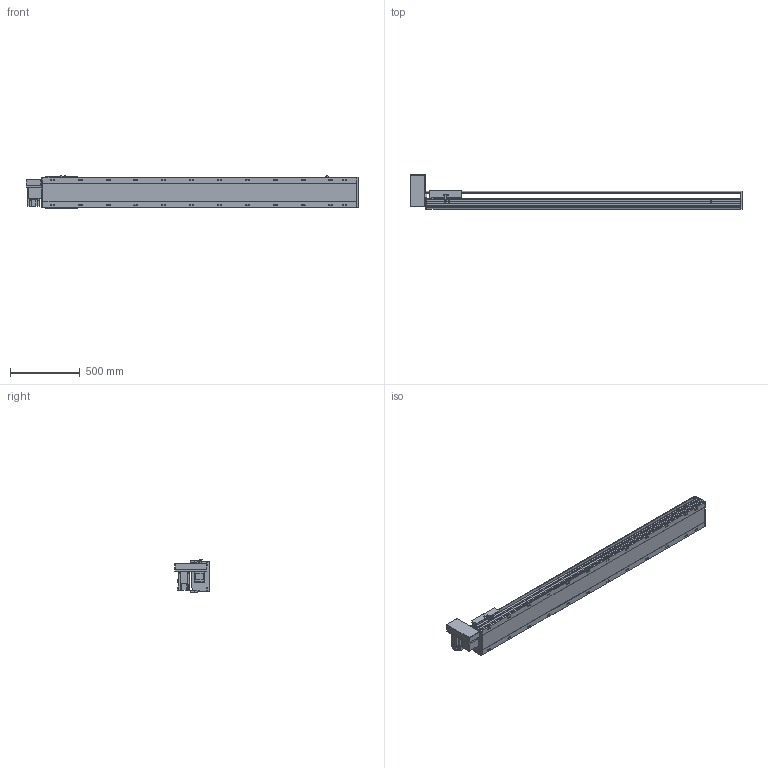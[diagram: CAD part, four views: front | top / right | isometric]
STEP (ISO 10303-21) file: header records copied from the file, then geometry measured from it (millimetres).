
FILE_DESCRIPTION(/* description */ ('STEP AP214'),/* implementation_level */ '2;1');
FILE_NAME(/* name */ 'PBS220-P40-S1900-RU-T75-C1-N(0)',/* time_stamp */ '2022-06-13T02:56:43+02:00',/* author */ ('License CC BY-ND 4.0'),/* organization */ ('CADENAS'),/* preprocessor_version */ 'ST-DEVELOPER v18.102',/* originating_system */ 'PARTsolutions',/* authorisation */ ' ');
FILE_SCHEMA (('AUTOMOTIVE_DESIGN {1 0 10303 214 3 1 1}'));
Length unit declared in the file: millimetre
Products named in the file (7): PBS220-P40-S1900-RU-T75-C1-N(0); PBS220_sensor; PBS220_plant; PBS220_sliser; T75-p1; PBS220T-RU_motors; PBS220-S1900()_body
Assembly tree (8 placements, depth 2):
  PBS220-P40-S1900-RU-T75-C1-N(0)
    PBS220_sensor  x3
    PBS220_plant
    PBS220_sliser
    T75-p1
    PBS220T-RU_motors
    PBS220-S1900()_body
Bounding box: 2384 x 247 x 238.5 mm (x, y, z)
Volume: 33575840.6 mm3; surface area: 3132459.2 mm2
Topology: 8 solids, 8 shells, 962 faces, 2508 edges, 1630 vertices
Faces by surface type: plane 614, cylinder 300, cone 48
Full cylindrical faces by diameter (mm): 2.013 x4, 4.5 x14, 4.917 x4, 6 x7, 6.647 x8, 8 x10, 8.376 x24, 8.5 x24, 10 x6, 14 x24, 38 x2, 40 x1, 70 x1
Entity records: 26877 total; most frequent: CARTESIAN_POINT 4756, DIRECTION 4671, ORIENTED_EDGE 4250, EDGE_CURVE 2125, AXIS2_PLACEMENT_3D 1659, VERTEX_POINT 1480, LINE 1353, VECTOR 1353
